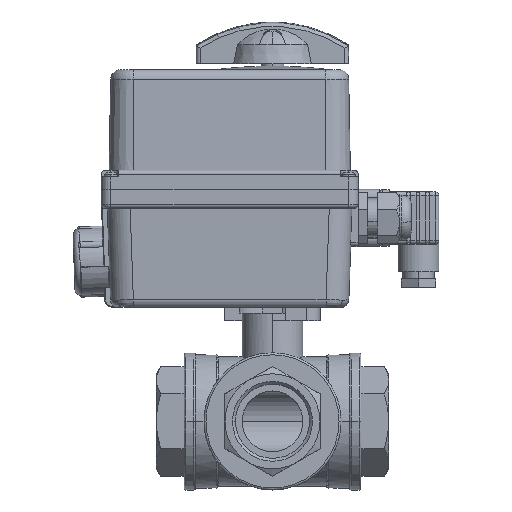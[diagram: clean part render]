
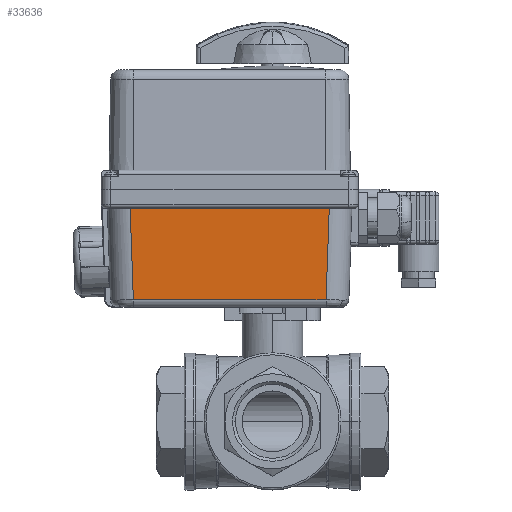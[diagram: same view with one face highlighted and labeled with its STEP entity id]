
A CAD part, top view. The second image highlights one B-rep face of the part: STEP entity #33636.
In plain terms, the highlighted planar face has unit normal (0, -0.035, 0.999).
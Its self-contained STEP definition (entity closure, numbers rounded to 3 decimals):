
#3494 = LINE ( 'NONE', #3495, #5429 ) ;
#3495 = CARTESIAN_POINT ( 'NONE',  ( 62.5, -10., 42.316 ) ) ;
#3496 = DIRECTION ( 'NONE',  ( -1., 0., 0. ) ) ;
#5429 = VECTOR ( 'NONE', #3496, 1000. ) ;
#9267 = VECTOR ( 'NONE', #19723, 1000. ) ;
#9271 = VECTOR ( 'NONE', #19729, 1000. ) ;
#9287 = VECTOR ( 'NONE', #19736, 1000. ) ;
#19707 = CARTESIAN_POINT ( 'NONE',  ( -50.37, -65.937, 40.363 ) ) ;
#19710 = LINE ( 'NONE', #19707, #9267 ) ;
#19712 = LINE ( 'NONE', #19725, #9271 ) ;
#19723 = DIRECTION ( 'NONE',  ( 0.035, -0.999, -0.035 ) ) ;
#19725 = CARTESIAN_POINT ( 'NONE',  ( 62.5, -58.14, 40.635 ) ) ;
#19729 = DIRECTION ( 'NONE',  ( 1., 0., 0. ) ) ;
#19731 = LINE ( 'NONE', #19734, #9287 ) ;
#19734 = CARTESIAN_POINT ( 'NONE',  ( 50.522, -61.582, 40.515 ) ) ;
#19736 = DIRECTION ( 'NONE',  ( 0.035, 0.999, 0.035 ) ) ;
#22238 = EDGE_CURVE ( 'NONE', #36364, #36360, #19710, .T. ) ;
#22239 = EDGE_CURVE ( 'NONE', #36360, #36407, #19712, .T. ) ;
#22240 = EDGE_CURVE ( 'NONE', #36407, #36367, #19731, .T. ) ;
#27794 = FACE_OUTER_BOUND ( 'NONE', #29207, .T. ) ;
#27799 = PLANE ( 'NONE',  #28691 ) ;
#27811 = CARTESIAN_POINT ( 'NONE',  ( 62.5, -62., 40.5 ) ) ;
#27812 = DIRECTION ( 'NONE',  ( 0., -0.035, 0.999 ) ) ;
#27813 = DIRECTION ( 'NONE',  ( 0., -0.999, -0.035 ) ) ;
#28691 = AXIS2_PLACEMENT_3D ( 'NONE', #27811, #27812, #27813 ) ;
#29207 = EDGE_LOOP ( 'NONE', ( #32044, #32045, #32046, #32047 ) ) ;
#32044 = ORIENTED_EDGE ( 'NONE', *, *, #22238, .T. ) ;
#32045 = ORIENTED_EDGE ( 'NONE', *, *, #22239, .T. ) ;
#32046 = ORIENTED_EDGE ( 'NONE', *, *, #22240, .T. ) ;
#32047 = ORIENTED_EDGE ( 'NONE', *, *, #35837, .T. ) ;
#33636 = ADVANCED_FACE ( 'NONE', ( #27794 ), #27799, .T. ) ;
#35837 = EDGE_CURVE ( 'NONE', #36367, #36364, #3494, .T. ) ;
#36360 = VERTEX_POINT ( 'NONE', #38411 ) ;
#36364 = VERTEX_POINT ( 'NONE', #38415 ) ;
#36367 = VERTEX_POINT ( 'NONE', #38418 ) ;
#36407 = VERTEX_POINT ( 'NONE', #38458 ) ;
#38411 = CARTESIAN_POINT ( 'NONE',  ( -50.642, -58.14, 40.635 ) ) ;
#38415 = CARTESIAN_POINT ( 'NONE',  ( -52.323, -10., 42.316 ) ) ;
#38418 = CARTESIAN_POINT ( 'NONE',  ( 52.323, -10., 42.316 ) ) ;
#38458 = CARTESIAN_POINT ( 'NONE',  ( 50.642, -58.14, 40.635 ) ) ;
